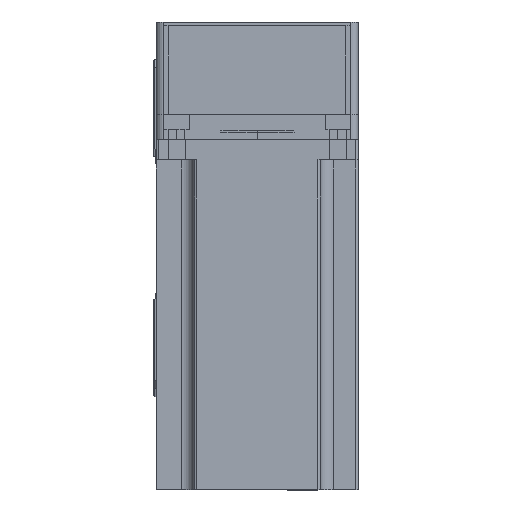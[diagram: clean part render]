
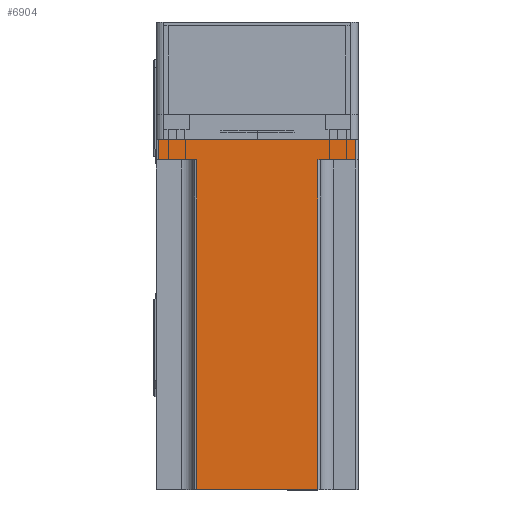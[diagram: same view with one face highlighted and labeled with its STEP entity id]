
A CAD part, top view. The second image highlights one B-rep face of the part: STEP entity #6904.
In plain terms, the highlighted planar face has unit normal (0, 0, 1) as drawn and (0, 1, 0) by its records, which use the part's own axes.
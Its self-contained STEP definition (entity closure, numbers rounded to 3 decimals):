
#570 = EDGE_CURVE ( 'NONE', #31168, #30465, #14856, .T. ) ;
#664 = VECTOR ( 'NONE', #32705, 1000. ) ;
#1476 = VERTEX_POINT ( 'NONE', #34902 ) ;
#3398 = CARTESIAN_POINT ( 'NONE',  ( -25., 40., 8. ) ) ;
#3900 = LINE ( 'NONE', #4584, #28381 ) ;
#4584 = CARTESIAN_POINT ( 'NONE',  ( -24., 40., 138.3 ) ) ;
#4771 = DIRECTION ( 'NONE',  ( 0., 0., 1. ) ) ;
#4845 = LINE ( 'NONE', #39236, #52273 ) ;
#4930 = VECTOR ( 'NONE', #40898, 1000. ) ;
#6377 = VERTEX_POINT ( 'NONE', #48535 ) ;
#6904 = ADVANCED_FACE ( 'NONE', ( #37426 ), #52081, .F. ) ;
#10035 = VECTOR ( 'NONE', #17739, 1000. ) ;
#10097 = VERTEX_POINT ( 'NONE', #56673 ) ;
#11735 = DIRECTION ( 'NONE',  ( 0., 0., -1. ) ) ;
#12039 = EDGE_CURVE ( 'NONE', #1476, #10097, #34491, .T. ) ;
#12541 = EDGE_CURVE ( 'NONE', #43747, #6377, #4845, .T. ) ;
#12980 = LINE ( 'NONE', #18829, #664 ) ;
#13919 = DIRECTION ( 'NONE',  ( 0., 0., 1. ) ) ;
#14856 = LINE ( 'NONE', #51894, #37819 ) ;
#15787 = DIRECTION ( 'NONE',  ( 0., -1., 0. ) ) ;
#16109 = ORIENTED_EDGE ( 'NONE', *, *, #22782, .F. ) ;
#17739 = DIRECTION ( 'NONE',  ( 0., 0., -1. ) ) ;
#18829 = CARTESIAN_POINT ( 'NONE',  ( 40., 40., 0. ) ) ;
#22782 = EDGE_CURVE ( 'NONE', #1476, #6377, #28565, .T. ) ;
#23658 = ORIENTED_EDGE ( 'NONE', *, *, #47306, .F. ) ;
#28381 = VECTOR ( 'NONE', #13919, 1000. ) ;
#28565 = LINE ( 'NONE', #28998, #39384 ) ;
#28998 = CARTESIAN_POINT ( 'NONE',  ( 25., 40., 8. ) ) ;
#29377 = LINE ( 'NONE', #31867, #4930 ) ;
#30351 = ORIENTED_EDGE ( 'NONE', *, *, #43917, .T. ) ;
#30465 = VERTEX_POINT ( 'NONE', #34781 ) ;
#30995 = DIRECTION ( 'NONE',  ( 1., 0., 0. ) ) ;
#31168 = VERTEX_POINT ( 'NONE', #32029 ) ;
#31867 = CARTESIAN_POINT ( 'NONE',  ( 40., 40., 138.3 ) ) ;
#32029 = CARTESIAN_POINT ( 'NONE',  ( -39., 40., 0. ) ) ;
#32705 = DIRECTION ( 'NONE',  ( -1., 0., 0. ) ) ;
#34491 = LINE ( 'NONE', #45202, #10035 ) ;
#34781 = CARTESIAN_POINT ( 'NONE',  ( -39., 40., 8. ) ) ;
#34875 = EDGE_LOOP ( 'NONE', ( #30351, #40977, #23658, #55421, #16109, #48455, #47721, #35934 ) ) ;
#34902 = CARTESIAN_POINT ( 'NONE',  ( 39., 40., 8. ) ) ;
#35275 = VERTEX_POINT ( 'NONE', #38928 ) ;
#35934 = ORIENTED_EDGE ( 'NONE', *, *, #570, .T. ) ;
#37081 = VECTOR ( 'NONE', #30995, 1000. ) ;
#37426 = FACE_OUTER_BOUND ( 'NONE', #34875, .T. ) ;
#37819 = VECTOR ( 'NONE', #4771, 1000. ) ;
#38197 = EDGE_CURVE ( 'NONE', #39815, #35275, #3900, .T. ) ;
#38274 = DIRECTION ( 'NONE',  ( -1., 0., 0. ) ) ;
#38928 = CARTESIAN_POINT ( 'NONE',  ( -24., 40., 138.3 ) ) ;
#39236 = CARTESIAN_POINT ( 'NONE',  ( 24., 40., 138.3 ) ) ;
#39384 = VECTOR ( 'NONE', #38274, 1000. ) ;
#39815 = VERTEX_POINT ( 'NONE', #55673 ) ;
#40898 = DIRECTION ( 'NONE',  ( -1., 0., 0. ) ) ;
#40977 = ORIENTED_EDGE ( 'NONE', *, *, #38197, .T. ) ;
#43280 = CARTESIAN_POINT ( 'NONE',  ( 40., 40., 138.3 ) ) ;
#43747 = VERTEX_POINT ( 'NONE', #52265 ) ;
#43917 = EDGE_CURVE ( 'NONE', #30465, #39815, #50684, .T. ) ;
#45202 = CARTESIAN_POINT ( 'NONE',  ( 39., 40., 138.3 ) ) ;
#47134 = AXIS2_PLACEMENT_3D ( 'NONE', #43280, #15787, #47868 ) ;
#47306 = EDGE_CURVE ( 'NONE', #43747, #35275, #29377, .T. ) ;
#47721 = ORIENTED_EDGE ( 'NONE', *, *, #55443, .T. ) ;
#47868 = DIRECTION ( 'NONE',  ( 1., 0., 0. ) ) ;
#48455 = ORIENTED_EDGE ( 'NONE', *, *, #12039, .T. ) ;
#48535 = CARTESIAN_POINT ( 'NONE',  ( 24., 40., 8. ) ) ;
#50684 = LINE ( 'NONE', #3398, #37081 ) ;
#51894 = CARTESIAN_POINT ( 'NONE',  ( -39., 40., 138.3 ) ) ;
#52081 = PLANE ( 'NONE',  #47134 ) ;
#52265 = CARTESIAN_POINT ( 'NONE',  ( 24., 40., 138.3 ) ) ;
#52273 = VECTOR ( 'NONE', #11735, 1000. ) ;
#55421 = ORIENTED_EDGE ( 'NONE', *, *, #12541, .T. ) ;
#55443 = EDGE_CURVE ( 'NONE', #10097, #31168, #12980, .T. ) ;
#55673 = CARTESIAN_POINT ( 'NONE',  ( -24., 40., 8. ) ) ;
#56673 = CARTESIAN_POINT ( 'NONE',  ( 39., 40., 0. ) ) ;
